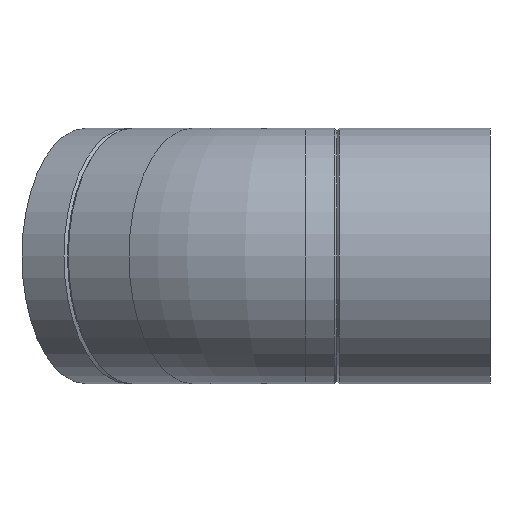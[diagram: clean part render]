
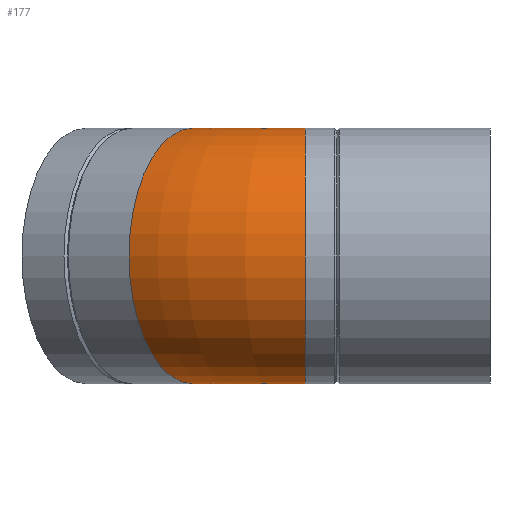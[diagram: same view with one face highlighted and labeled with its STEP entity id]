
A CAD part, left-side view. The second image highlights one B-rep face of the part: STEP entity #177.
In plain terms, the highlighted toroidal (fillet/blend) face has major radius 110 mm and minor radius 62.5 mm.
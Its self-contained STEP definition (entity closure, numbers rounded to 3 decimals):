
#15=TOROIDAL_SURFACE($,#207,110.,62.5);
#32=FACE_BOUND($,#71,.T.);
#48=FACE_OUTER_BOUND($,#70,.T.);
#70=EDGE_LOOP($,(#140));
#71=EDGE_LOOP($,(#141));
#85=CIRCLE($,#197,62.5);
#90=CIRCLE($,#206,62.5);
#99=VERTEX_POINT($,#291);
#104=VERTEX_POINT($,#305);
#113=EDGE_CURVE($,#99,#99,#85,.T.);
#118=EDGE_CURVE($,#104,#104,#90,.T.);
#140=ORIENTED_EDGE($,*,*,#118,.T.);
#141=ORIENTED_EDGE($,*,*,#113,.F.);
#177=ADVANCED_FACE($,(#48,#32),#15,.T.);
#197=AXIS2_PLACEMENT_3D($,#292,#240,#241);
#206=AXIS2_PLACEMENT_3D($,#306,#258,#259);
#207=AXIS2_PLACEMENT_3D($,#307,#260,#261);
#240=DIRECTION('center_axis',(0.,-1.,0.));
#241=DIRECTION('ref_axis',(1.,0.,0.));
#258=DIRECTION('center_axis',(-0.5,-0.866,0.));
#259=DIRECTION('ref_axis',(0.866,-0.5,0.));
#260=DIRECTION('center_axis',(0.,0.,-1.));
#261=DIRECTION('ref_axis',(-1.,0.,0.));
#291=CARTESIAN_POINT('',(-62.5,90.526,0.));
#292=CARTESIAN_POINT('Origin',(0.,90.526,0.));
#305=CARTESIAN_POINT('',(-39.389,176.776,0.));
#306=CARTESIAN_POINT('Origin',(14.737,145.526,0.));
#307=CARTESIAN_POINT('Origin',(110.,90.526,0.));
